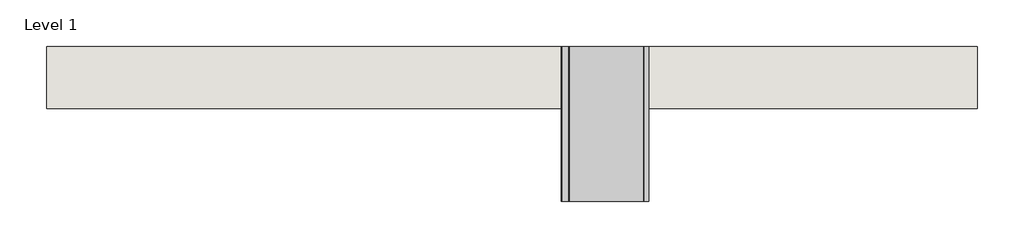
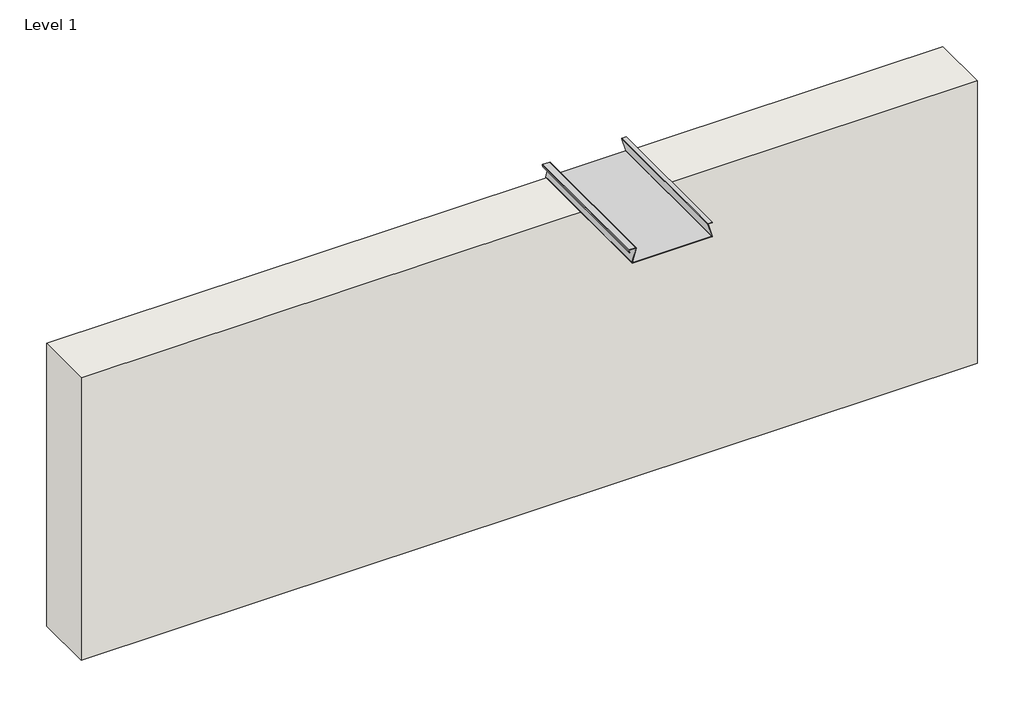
# One storey: 1 proxy, 1 wall.
"""IFC4 building model written with IfcOpenShell, lengths in millimetres."""

from ifc_helpers import new_model, si_unit, origin, origin_with_axes, place, context, project, spatial, polyline, outline, extrude, transform, mapped, element, save
from components import bond_lok_sheeting_family_bond_lok_sheeting_fb750020

model = new_model("IFC4")

# Units and contexts
model_context = context("Model", 3, world=origin())
ifc_project = project(units=[si_unit("LENGTHUNIT", "METRE", prefix="MILLI")], contexts=[model_context])

# Site, building, storey
site = spatial("IfcSite", under=ifc_project)
building = spatial("IfcBuilding", under=site)
storey = spatial("IfcBuildingStorey", under=building, Name="Level 1", Elevation=0.0)

# Proxy
placement = place(None, origin())
bond_lok_sheeting_family_bond_lok_sheeting_shape = bond_lok_sheeting_family_bond_lok_sheeting_fb750020(model_context)
element("IfcBuildingElementProxy", 1, Name="Bond-Lok Sheeting Family : Bond-Lok Sheeting", ObjectType="Bond-Lok Sheeting Family : Bond-Lok Sheeting", at=placement, inside=storey, context=model_context, shape_type="MappedRepresentation", body=[
    mapped(bond_lok_sheeting_family_bond_lok_sheeting_shape, transform((-9262.9007843, 888.5299705, 1000.0), x_axis=(1.0, 0.0, 0.0), y_axis=(0.0, 1.0, 0.0), z_axis=(0.0, 0.0, 1.0))),
])

# Wall
element("IfcWall", 2, ObjectType="Generic - 200mm", at=placement, inside=storey, context=model_context, shape_type="SweptSolid", body=[
    extrude(outline(polyline([(-8062.9007843, 688.5299705), (-11062.9007843, 688.5299705), (-11062.9007843, 888.5299705), (-8062.9007843, 888.5299705), (-8062.9007843, 688.5299705)])), origin_with_axes(), (0.0, 0.0, 1.0), 1000.0),
])

save(model, "model.ifc")
